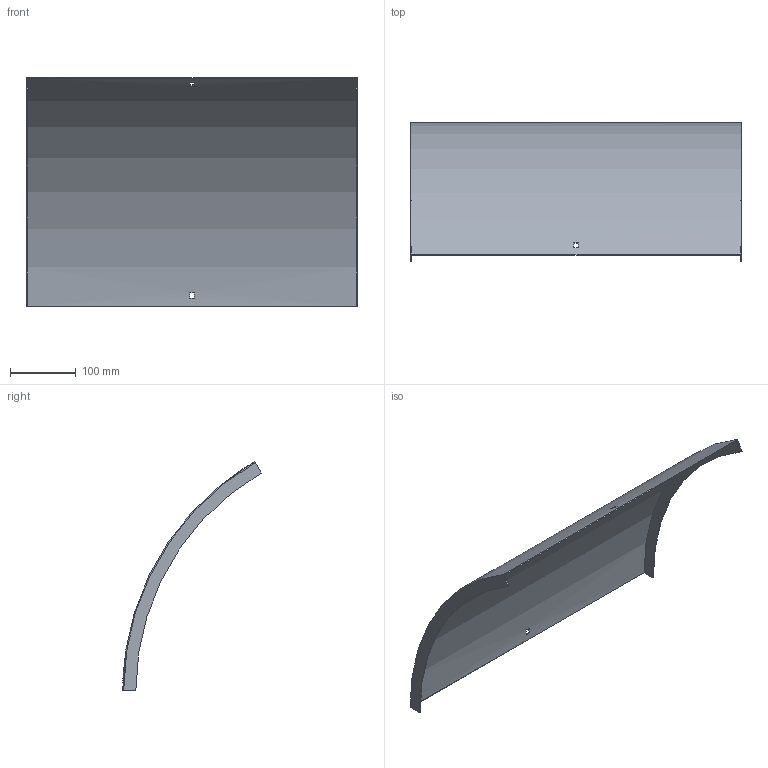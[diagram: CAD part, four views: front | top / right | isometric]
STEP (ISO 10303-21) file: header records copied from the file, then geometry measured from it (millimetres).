
FILE_DESCRIPTION (( 'STEP AP214' ), '1' );
FILE_NAME ('B2_41N3D500.step', '2025-02-21T10:41:46', ( '' ), ( '' ), 'SwSTEP 2.0', 'SolidWorks 2023', '' );
FILE_SCHEMA (( 'AUTOMOTIVE_DESIGN' ));
Length unit declared in the file: millimetre
Products named in the file (1): B2_41N3D500
Bounding box: 503 x 210.75 x 347.71 mm (x, y, z)
Volume: 339171.3 mm3; surface area: 455142.4 mm2
Topology: 1 solids, 1 shells, 18 faces, 48 edges, 32 vertices
Faces by surface type: plane 14, cylinder 4
Entity records: 599 total; most frequent: DIRECTION 102, CARTESIAN_POINT 99, ORIENTED_EDGE 96, EDGE_CURVE 48, AXIS2_PLACEMENT_3D 35, LINE 32, VERTEX_POINT 32, VECTOR 32
